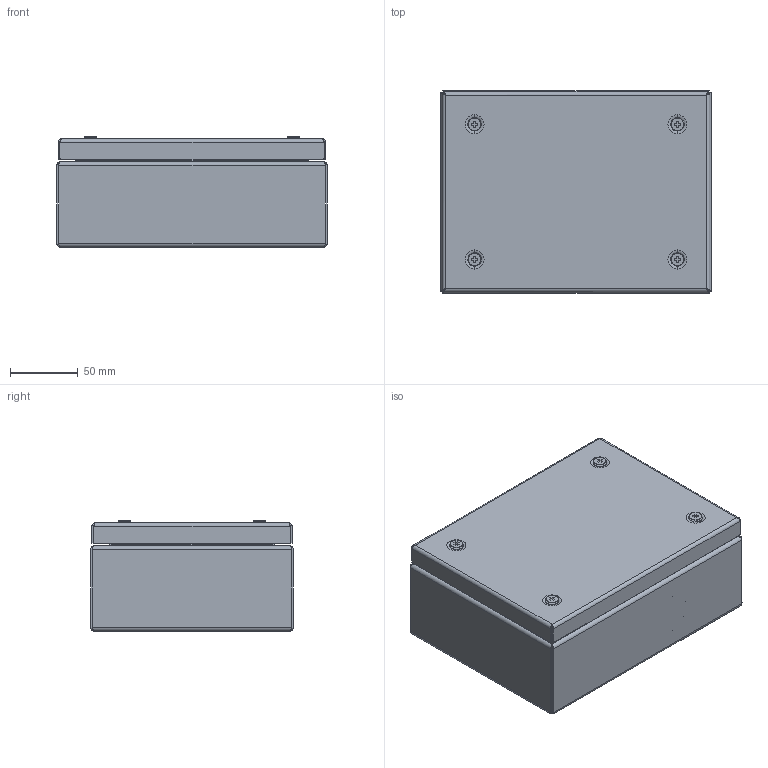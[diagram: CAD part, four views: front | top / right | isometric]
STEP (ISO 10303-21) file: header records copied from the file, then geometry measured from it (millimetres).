
FILE_DESCRIPTION (( 'STEP AP203' ), '1' );
FILE_NAME ('BSS 15.20.08-L Êîðîáêà êëåììíàÿ èç íåðæ. ñòàëè.STEP', '2025-05-06T09:50:42', ( '' ), ( '' ), 'SwSTEP 2.0', 'SolidWorks 2019', '' );
FILE_SCHEMA (( 'CONFIG_CONTROL_DESIGN' ));
Length unit declared in the file: millimetre
Products named in the file (13): Ãàéêà çàêëàäíàÿ êâàäðàòíàÿ îö. Ì5_ƒ ©ª  § ª« ¤­ ï ª¢ ¤à â­ ï ®æ. Œ5 1,7-2,7; BSS 15.20.08-L Êîðîáêà êëåììíàÿ èç íåðæ. ñòàëè; BSS X.Y.Z.01.001 扻豵鵨_BSS 15.20.08.01.001; BSS X.002 扰鍙欙樥燲BSS 15.002; BSS X.Y.02.000-L ÑÁ Êðûøêà êëåììíàÿ_BSS 15.20.02.000-L; 妈眚 襦祛磬疱玎栝_4,8x11; 妈眚 礤恹镟溧栝 镱蜞轫铋 梦岩 10339-80_M5x32; BSS Y.003-L 赶鎀鍧_BSS 20.003-L; ﾘ琺矜 5 ﾃﾎﾑﾒ 11371-78_Washer DIN 126 - 5.5; BSS X.Y.02.001-L Êðûøêà êëåììíàÿ_BSS 15.20.02.001-L; DIN 07.Y DIN-ðåéêà_DIN 07.175 DIN-à¥©ª ; Øïèëüêà çàçåìëåíèÿ Ì6õ17,5_v.2_˜¯¨«ìª  § §¥¬«¥­¨ï Œ6å17,5 á ª®«¯ çª®¬; BSS X.Y.Z.01.000-L 蚜 暑痫篑 觌屐祉 疋囵眍開BSS 15.20.08.01.000-L
Assembly tree (25 placements, depth 3):
  BSS 15.20.08-L Êîðîáêà êëåììíàÿ èç íåðæ. ñòàëè
    BSS X.Y.Z.01.000-L 蚜 暑痫篑 觌屐祉 疋囵眍開BSS 15.20.08.01.000-L
      BSS X.Y.Z.01.001 扻豵鵨_BSS 15.20.08.01.001
      BSS X.002 扰鍙欙樥燲BSS 15.002  x2
      Øïèëüêà çàçåìëåíèÿ Ì6õ17,5_v.2_˜¯¨«ìª  § §¥¬«¥­¨ï Œ6å17,5 á ª®«¯ çª®¬
      BSS Y.003-L 赶鎀鍧_BSS 20.003-L  x2
    BSS X.Y.02.000-L ÑÁ Êðûøêà êëåììíàÿ_BSS 15.20.02.000-L
      BSS X.Y.02.001-L Êðûøêà êëåììíàÿ_BSS 15.20.02.001-L
      Øïèëüêà çàçåìëåíèÿ Ì6õ17,5_v.2_˜¯¨«ìª  § §¥¬«¥­¨ï Œ6å17,5 á ª®«¯ çª®¬
    DIN 07.Y DIN-ðåéêà_DIN 07.175 DIN-à¥©ª 
    妈眚 襦祛磬疱玎栝_4,8x11  x2
    ﾘ琺矜 5 ﾃﾎﾑﾒ 11371-78_Washer DIN 126 - 5.5  x4
    妈眚 礤恹镟溧栝 镱蜞轫铋 梦岩 10339-80_M5x32  x4
    Ãàéêà çàêëàäíàÿ êâàäðàòíàÿ îö. Ì5_ƒ ©ª  § ª« ¤­ ï ª¢ ¤à â­ ï ®æ. Œ5 1,7-2,7  x4
Bounding box: 200 x 150 x 81.5 mm (x, y, z)
Volume: 210648 mm3; surface area: 340273.1 mm2
Topology: 30 solids, 30 shells, 1525 faces, 3582 edges, 2131 vertices
Faces by surface type: plane 893, cylinder 438, cone 82, bspline 76, torus 36
Entity records: 27656 total; most frequent: CARTESIAN_POINT 9015, ORIENTED_EDGE 3590, DIRECTION 3398, EDGE_CURVE 1795, AXIS2_PLACEMENT_3D 1149, VECTOR 1100, LINE 1100, VERTEX_POINT 1069
